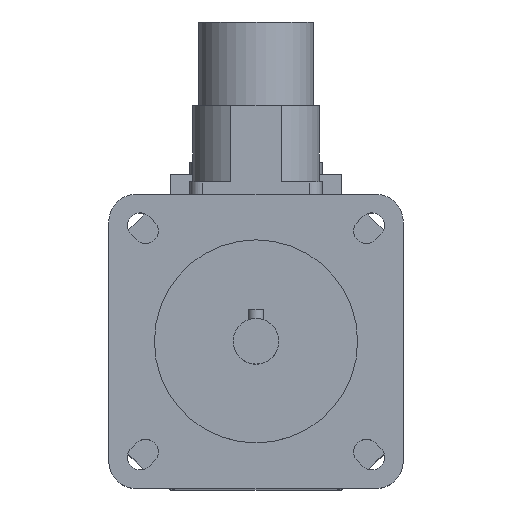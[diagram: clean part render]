
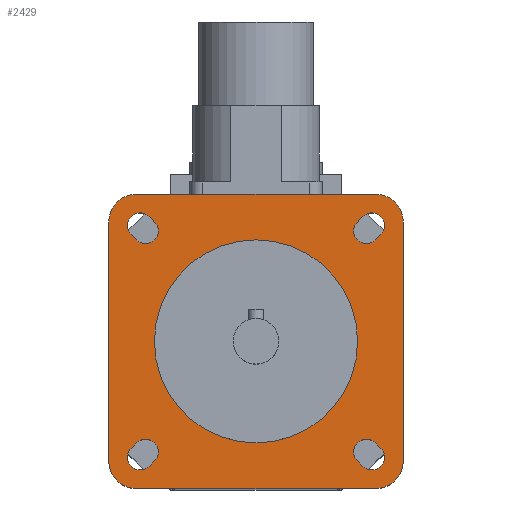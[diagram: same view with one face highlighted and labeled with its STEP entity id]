
A CAD part, top view. The second image highlights one B-rep face of the part: STEP entity #2429.
In plain terms, the highlighted planar face has unit normal (0, 0, 1).
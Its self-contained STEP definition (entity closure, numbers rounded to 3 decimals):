
#28=FACE_BOUND('',#427,.T.);
#29=FACE_BOUND('',#428,.T.);
#30=FACE_BOUND('',#429,.T.);
#31=FACE_BOUND('',#430,.T.);
#32=FACE_BOUND('',#431,.T.);
#47=CIRCLE('',#2525,20.);
#84=CIRCLE('',#2589,2.5);
#88=CIRCLE('',#2596,2.5);
#89=CIRCLE('',#2599,2.5);
#90=CIRCLE('',#2602,2.5);
#100=CIRCLE('',#2617,2.5);
#101=CIRCLE('',#2620,2.5);
#102=CIRCLE('',#2623,2.5);
#103=CIRCLE('',#2626,2.5);
#104=CIRCLE('',#2628,5.5);
#105=CIRCLE('',#2630,5.5);
#106=CIRCLE('',#2632,5.5);
#107=CIRCLE('',#2634,5.5);
#282=FACE_OUTER_BOUND('',#426,.T.);
#426=EDGE_LOOP('',(#1862,#1863,#1864,#1865,#1866,#1867,#1868,#1869));
#427=EDGE_LOOP('',(#1870));
#428=EDGE_LOOP('',(#1871,#1872,#1873,#1874));
#429=EDGE_LOOP('',(#1875,#1876,#1877,#1878));
#430=EDGE_LOOP('',(#1879,#1880,#1881,#1882));
#431=EDGE_LOOP('',(#1883,#1884,#1885,#1886));
#576=LINE('',#3759,#807);
#584=LINE('',#3783,#815);
#588=LINE('',#3793,#819);
#592=LINE('',#3803,#823);
#608=LINE('',#3854,#839);
#610=LINE('',#3860,#841);
#612=LINE('',#3866,#843);
#614=LINE('',#3872,#845);
#623=LINE('',#3900,#854);
#624=LINE('',#3901,#855);
#625=LINE('',#3902,#856);
#626=LINE('',#3903,#857);
#807=VECTOR('',#2980,1.5);
#815=VECTOR('',#3002,1.5);
#819=VECTOR('',#3012,1.5);
#823=VECTOR('',#3022,1.5);
#839=VECTOR('',#3068,1.5);
#841=VECTOR('',#3076,1.5);
#843=VECTOR('',#3084,1.5);
#845=VECTOR('',#3092,1.5);
#854=VECTOR('',#3123,47.);
#855=VECTOR('',#3124,47.);
#856=VECTOR('',#3125,47.);
#857=VECTOR('',#3126,47.);
#992=VERTEX_POINT('',#3580);
#1057=VERTEX_POINT('',#3756);
#1058=VERTEX_POINT('',#3758);
#1059=VERTEX_POINT('',#3762);
#1066=VERTEX_POINT('',#3780);
#1067=VERTEX_POINT('',#3782);
#1068=VERTEX_POINT('',#3786);
#1069=VERTEX_POINT('',#3790);
#1070=VERTEX_POINT('',#3792);
#1071=VERTEX_POINT('',#3796);
#1072=VERTEX_POINT('',#3800);
#1073=VERTEX_POINT('',#3802);
#1074=VERTEX_POINT('',#3806);
#1093=VERTEX_POINT('',#3852);
#1094=VERTEX_POINT('',#3858);
#1095=VERTEX_POINT('',#3864);
#1096=VERTEX_POINT('',#3870);
#1097=VERTEX_POINT('',#3876);
#1098=VERTEX_POINT('',#3878);
#1099=VERTEX_POINT('',#3882);
#1100=VERTEX_POINT('',#3884);
#1101=VERTEX_POINT('',#3888);
#1102=VERTEX_POINT('',#3890);
#1103=VERTEX_POINT('',#3894);
#1104=VERTEX_POINT('',#3896);
#1234=EDGE_CURVE('',#992,#992,#47,.T.);
#1320=EDGE_CURVE('',#1058,#1057,#576,.T.);
#1323=EDGE_CURVE('',#1057,#1059,#84,.T.);
#1332=EDGE_CURVE('',#1067,#1066,#584,.T.);
#1335=EDGE_CURVE('',#1066,#1068,#88,.T.);
#1337=EDGE_CURVE('',#1070,#1069,#588,.T.);
#1340=EDGE_CURVE('',#1069,#1071,#89,.T.);
#1342=EDGE_CURVE('',#1073,#1072,#592,.T.);
#1345=EDGE_CURVE('',#1072,#1074,#90,.T.);
#1368=EDGE_CURVE('',#1071,#1093,#608,.T.);
#1369=EDGE_CURVE('',#1093,#1070,#100,.T.);
#1371=EDGE_CURVE('',#1068,#1094,#610,.T.);
#1372=EDGE_CURVE('',#1094,#1067,#101,.T.);
#1374=EDGE_CURVE('',#1074,#1095,#612,.T.);
#1375=EDGE_CURVE('',#1095,#1073,#102,.T.);
#1377=EDGE_CURVE('',#1059,#1096,#614,.T.);
#1378=EDGE_CURVE('',#1096,#1058,#103,.T.);
#1380=EDGE_CURVE('',#1098,#1097,#104,.T.);
#1383=EDGE_CURVE('',#1100,#1099,#105,.T.);
#1386=EDGE_CURVE('',#1102,#1101,#106,.T.);
#1389=EDGE_CURVE('',#1104,#1103,#107,.T.);
#1391=EDGE_CURVE('',#1097,#1104,#623,.T.);
#1392=EDGE_CURVE('',#1103,#1102,#624,.T.);
#1393=EDGE_CURVE('',#1101,#1100,#625,.T.);
#1394=EDGE_CURVE('',#1099,#1098,#626,.T.);
#1862=ORIENTED_EDGE('',*,*,#1391,.T.);
#1863=ORIENTED_EDGE('',*,*,#1389,.T.);
#1864=ORIENTED_EDGE('',*,*,#1392,.T.);
#1865=ORIENTED_EDGE('',*,*,#1386,.T.);
#1866=ORIENTED_EDGE('',*,*,#1393,.T.);
#1867=ORIENTED_EDGE('',*,*,#1383,.T.);
#1868=ORIENTED_EDGE('',*,*,#1394,.T.);
#1869=ORIENTED_EDGE('',*,*,#1380,.T.);
#1870=ORIENTED_EDGE('',*,*,#1234,.T.);
#1871=ORIENTED_EDGE('',*,*,#1368,.T.);
#1872=ORIENTED_EDGE('',*,*,#1369,.T.);
#1873=ORIENTED_EDGE('',*,*,#1337,.T.);
#1874=ORIENTED_EDGE('',*,*,#1340,.T.);
#1875=ORIENTED_EDGE('',*,*,#1371,.T.);
#1876=ORIENTED_EDGE('',*,*,#1372,.T.);
#1877=ORIENTED_EDGE('',*,*,#1332,.T.);
#1878=ORIENTED_EDGE('',*,*,#1335,.T.);
#1879=ORIENTED_EDGE('',*,*,#1374,.T.);
#1880=ORIENTED_EDGE('',*,*,#1375,.T.);
#1881=ORIENTED_EDGE('',*,*,#1342,.T.);
#1882=ORIENTED_EDGE('',*,*,#1345,.T.);
#1883=ORIENTED_EDGE('',*,*,#1377,.T.);
#1884=ORIENTED_EDGE('',*,*,#1378,.T.);
#1885=ORIENTED_EDGE('',*,*,#1320,.T.);
#1886=ORIENTED_EDGE('',*,*,#1323,.T.);
#2328=PLANE('',#2635);
#2429=ADVANCED_FACE('',(#282,#28,#29,#30,#31,#32),#2328,.T.);
#2525=AXIS2_PLACEMENT_3D('',#3581,#2805,#2806);
#2589=AXIS2_PLACEMENT_3D('',#3764,#2985,#2986);
#2596=AXIS2_PLACEMENT_3D('',#3788,#3007,#3008);
#2599=AXIS2_PLACEMENT_3D('',#3798,#3017,#3018);
#2602=AXIS2_PLACEMENT_3D('',#3808,#3027,#3028);
#2617=AXIS2_PLACEMENT_3D('',#3856,#3071,#3072);
#2620=AXIS2_PLACEMENT_3D('',#3862,#3079,#3080);
#2623=AXIS2_PLACEMENT_3D('',#3868,#3087,#3088);
#2626=AXIS2_PLACEMENT_3D('',#3874,#3095,#3096);
#2628=AXIS2_PLACEMENT_3D('',#3879,#3100,#3101);
#2630=AXIS2_PLACEMENT_3D('',#3885,#3106,#3107);
#2632=AXIS2_PLACEMENT_3D('',#3891,#3112,#3113);
#2634=AXIS2_PLACEMENT_3D('',#3897,#3118,#3119);
#2635=AXIS2_PLACEMENT_3D('',#3899,#3121,#3122);
#2805=DIRECTION('center_axis',(0.,0.,-1.));
#2806=DIRECTION('ref_axis',(-1.,0.,0.));
#2980=DIRECTION('',(-0.707,-0.707,0.));
#2985=DIRECTION('center_axis',(0.,0.,-1.));
#2986=DIRECTION('ref_axis',(0.707,-0.707,0.));
#3002=DIRECTION('',(-0.707,0.707,0.));
#3007=DIRECTION('center_axis',(0.,0.,-1.));
#3008=DIRECTION('ref_axis',(-0.707,-0.707,0.));
#3012=DIRECTION('',(-0.707,-0.707,0.));
#3017=DIRECTION('center_axis',(0.,0.,-1.));
#3018=DIRECTION('ref_axis',(0.707,-0.707,0.));
#3022=DIRECTION('',(-0.707,0.707,0.));
#3027=DIRECTION('center_axis',(0.,0.,-1.));
#3028=DIRECTION('ref_axis',(-0.707,-0.707,0.));
#3068=DIRECTION('',(0.707,0.707,0.));
#3071=DIRECTION('center_axis',(0.,0.,-1.));
#3072=DIRECTION('ref_axis',(-0.707,0.707,0.));
#3076=DIRECTION('',(0.707,-0.707,0.));
#3079=DIRECTION('center_axis',(0.,0.,-1.));
#3080=DIRECTION('ref_axis',(0.707,0.707,0.));
#3084=DIRECTION('',(0.707,-0.707,0.));
#3087=DIRECTION('center_axis',(0.,0.,-1.));
#3088=DIRECTION('ref_axis',(0.707,0.707,0.));
#3092=DIRECTION('',(0.707,0.707,0.));
#3095=DIRECTION('center_axis',(0.,0.,-1.));
#3096=DIRECTION('ref_axis',(-0.707,0.707,0.));
#3100=DIRECTION('center_axis',(0.,0.,1.));
#3101=DIRECTION('ref_axis',(1.,0.,0.));
#3106=DIRECTION('center_axis',(0.,0.,1.));
#3107=DIRECTION('ref_axis',(0.,-1.,0.));
#3112=DIRECTION('center_axis',(0.,0.,1.));
#3113=DIRECTION('ref_axis',(-1.,0.,0.));
#3118=DIRECTION('center_axis',(0.,0.,1.));
#3119=DIRECTION('ref_axis',(0.,1.,0.));
#3121=DIRECTION('center_axis',(0.,0.,1.));
#3122=DIRECTION('ref_axis',(1.,0.,0.));
#3123=DIRECTION('',(-1.,0.,0.));
#3124=DIRECTION('',(0.,-1.,0.));
#3125=DIRECTION('',(1.,0.,0.));
#3126=DIRECTION('',(0.,1.,0.));
#3580=CARTESIAN_POINT('',(20.,0.,85.5));
#3581=CARTESIAN_POINT('Origin',(0.,0.,85.5));
#3756=CARTESIAN_POINT('',(-21.036,-24.572,85.5));
#3758=CARTESIAN_POINT('',(-19.976,-23.511,85.5));
#3759=CARTESIAN_POINT('',(-9.634,-13.17,85.5));
#3762=CARTESIAN_POINT('',(-24.572,-21.036,85.5));
#3764=CARTESIAN_POINT('Origin',(-22.804,-22.804,85.5));
#3780=CARTESIAN_POINT('',(-24.572,21.036,85.5));
#3782=CARTESIAN_POINT('',(-23.511,19.976,85.5));
#3783=CARTESIAN_POINT('',(-13.17,9.634,85.5));
#3786=CARTESIAN_POINT('',(-21.036,24.572,85.5));
#3788=CARTESIAN_POINT('Origin',(-22.804,22.804,85.5));
#3790=CARTESIAN_POINT('',(23.511,19.976,85.5));
#3792=CARTESIAN_POINT('',(24.572,21.036,85.5));
#3793=CARTESIAN_POINT('',(12.64,9.104,85.5));
#3796=CARTESIAN_POINT('',(19.976,23.511,85.5));
#3798=CARTESIAN_POINT('Origin',(21.744,21.744,85.5));
#3800=CARTESIAN_POINT('',(19.976,-23.511,85.5));
#3802=CARTESIAN_POINT('',(21.036,-24.572,85.5));
#3803=CARTESIAN_POINT('',(9.104,-12.64,85.5));
#3806=CARTESIAN_POINT('',(23.511,-19.976,85.5));
#3808=CARTESIAN_POINT('Origin',(21.744,-21.744,85.5));
#3852=CARTESIAN_POINT('',(21.036,24.572,85.5));
#3854=CARTESIAN_POINT('',(9.634,13.17,85.5));
#3856=CARTESIAN_POINT('Origin',(22.804,22.804,85.5));
#3858=CARTESIAN_POINT('',(-19.976,23.511,85.5));
#3860=CARTESIAN_POINT('',(-9.104,12.64,85.5));
#3862=CARTESIAN_POINT('Origin',(-21.744,21.744,85.5));
#3864=CARTESIAN_POINT('',(24.572,-21.036,85.5));
#3866=CARTESIAN_POINT('',(13.17,-9.634,85.5));
#3868=CARTESIAN_POINT('Origin',(22.804,-22.804,85.5));
#3870=CARTESIAN_POINT('',(-23.511,-19.976,85.5));
#3872=CARTESIAN_POINT('',(-12.64,-9.104,85.5));
#3874=CARTESIAN_POINT('Origin',(-21.744,-21.744,85.5));
#3876=CARTESIAN_POINT('',(23.5,29.,85.5));
#3878=CARTESIAN_POINT('',(29.,23.5,85.5));
#3879=CARTESIAN_POINT('Origin',(23.5,23.5,85.5));
#3882=CARTESIAN_POINT('',(29.,-23.5,85.5));
#3884=CARTESIAN_POINT('',(23.5,-29.,85.5));
#3885=CARTESIAN_POINT('Origin',(23.5,-23.5,85.5));
#3888=CARTESIAN_POINT('',(-23.5,-29.,85.5));
#3890=CARTESIAN_POINT('',(-29.,-23.5,85.5));
#3891=CARTESIAN_POINT('Origin',(-23.5,-23.5,85.5));
#3894=CARTESIAN_POINT('',(-29.,23.5,85.5));
#3896=CARTESIAN_POINT('',(-23.5,29.,85.5));
#3897=CARTESIAN_POINT('Origin',(-23.5,23.5,85.5));
#3899=CARTESIAN_POINT('Origin',(0.,0.,
85.5));
#3900=CARTESIAN_POINT('',(23.5,29.,85.5));
#3901=CARTESIAN_POINT('',(-29.,23.5,85.5));
#3902=CARTESIAN_POINT('',(-23.5,-29.,85.5));
#3903=CARTESIAN_POINT('',(29.,-23.5,85.5));
